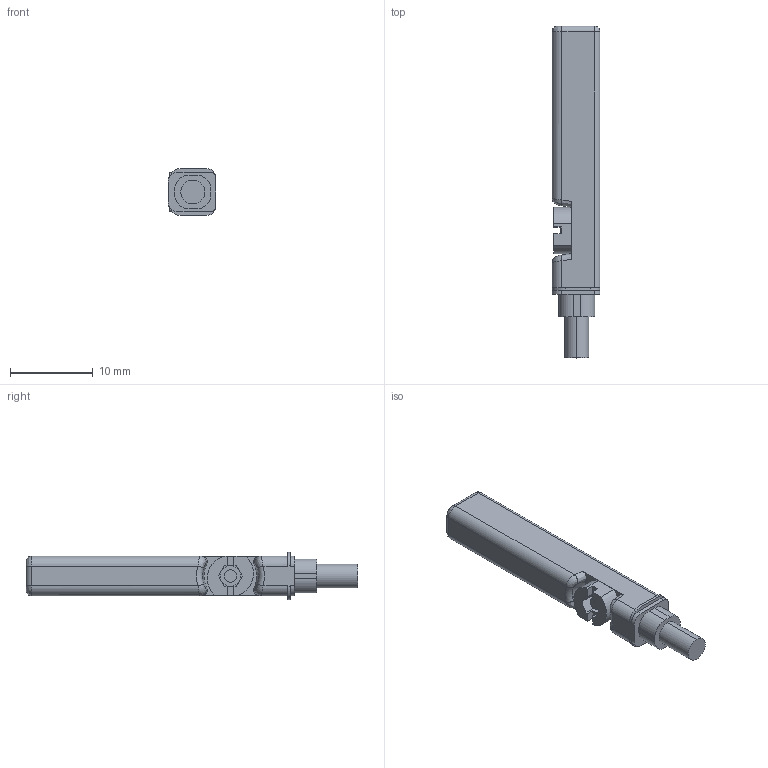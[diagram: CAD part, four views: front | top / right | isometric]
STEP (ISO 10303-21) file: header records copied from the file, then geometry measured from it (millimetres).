
FILE_DESCRIPTION((''),'2;1');
FILE_NAME('R412028895','2024-01-22T22:15:00',('THD3HC'),(''),'CREO PARAMETRIC BY PTC INC, 2020044','CREO PARAMETRIC BY PTC INC, 2020044','');
FILE_SCHEMA(('CONFIG_CONTROL_DESIGN','SHAPE_APPEARANCE_LAYERS_GROUPS'));
Length unit declared in the file: millimetre
Products named in the file (1): R412028895
Bounding box: 5.8 x 40.2 x 5.7 mm (x, y, z)
Volume: 920.9 mm3; surface area: 833.6 mm2
Topology: 1 solids, 1 shells, 92 faces, 244 edges, 156 vertices
Faces by surface type: plane 46, cylinder 30, bspline 10, sphere 2, cone 2, torus 2
Entity records: 4584 total; most frequent: CARTESIAN_POINT 1145, ORIENTED_EDGE 484, DIRECTION 468, PRESENTATION_STYLE_ASSIGNMENT 273, STYLED_ITEM 243, CURVE_STYLE 242, EDGE_CURVE 242, AXIS2_PLACEMENT_3D 164
